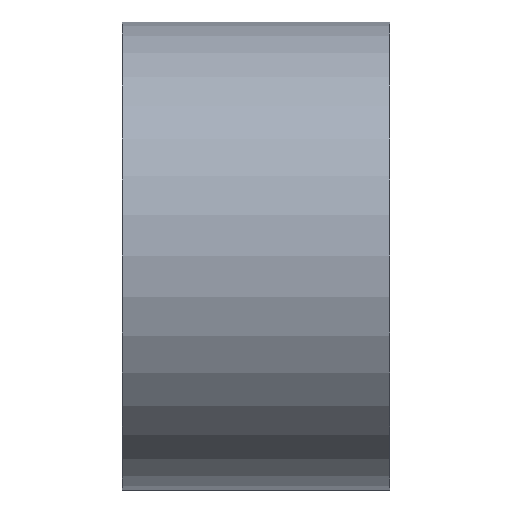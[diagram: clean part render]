
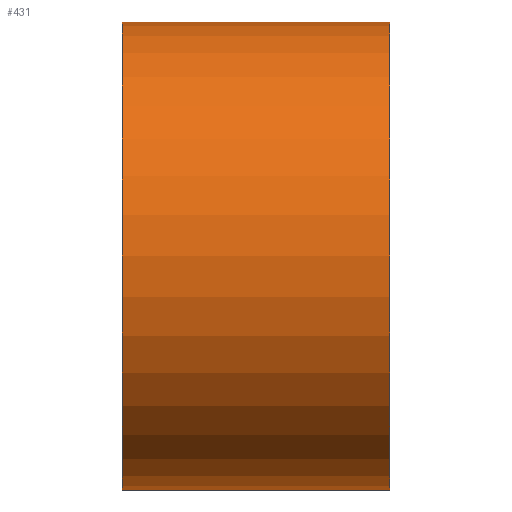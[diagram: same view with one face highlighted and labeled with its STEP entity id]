
A CAD part, left-side view. The second image highlights one B-rep face of the part: STEP entity #431.
In plain terms, the highlighted cylindrical face has radius 17.5 mm (diameter 35 mm), a partial arc.
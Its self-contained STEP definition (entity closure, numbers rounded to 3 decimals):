
#2 = LINE ( 'NONE', #452, #10 ) ;
#10 = VECTOR ( 'NONE', #308, 1000. ) ;
#14 = CIRCLE ( 'NONE', #543, 17.5 ) ;
#18 = EDGE_CURVE ( 'NONE', #883, #197, #2, .T. ) ;
#23 = ORIENTED_EDGE ( 'NONE', *, *, #84, .F. ) ;
#84 = EDGE_CURVE ( 'NONE', #140, #658, #461, .T. ) ;
#91 = CARTESIAN_POINT ( 'NONE',  ( 0., 10., 17.5 ) ) ;
#140 = VERTEX_POINT ( 'NONE', #253 ) ;
#166 = CYLINDRICAL_SURFACE ( 'NONE', #909, 17.5 ) ;
#170 = EDGE_LOOP ( 'NONE', ( #23, #701, #787, #877 ) ) ;
#185 = CARTESIAN_POINT ( 'NONE',  ( 0., -10., 17.5 ) ) ;
#197 = VERTEX_POINT ( 'NONE', #91 ) ;
#211 = DIRECTION ( 'NONE',  ( 0., 1., 0. ) ) ;
#253 = CARTESIAN_POINT ( 'NONE',  ( 0., -10., -17.5 ) ) ;
#282 = CARTESIAN_POINT ( 'NONE',  ( 0., -10., 0. ) ) ;
#308 = DIRECTION ( 'NONE',  ( 0., 1., 0. ) ) ;
#431 = ADVANCED_FACE ( 'NONE', ( #751 ), #166, .T. ) ;
#452 = CARTESIAN_POINT ( 'NONE',  ( 0., 0., 17.5 ) ) ;
#458 = CIRCLE ( 'NONE', #866, 17.5 ) ;
#461 = LINE ( 'NONE', #833, #584 ) ;
#528 = DIRECTION ( 'NONE',  ( 0., 1., 0. ) ) ;
#543 = AXIS2_PLACEMENT_3D ( 'NONE', #282, #211, #656 ) ;
#558 = DIRECTION ( 'NONE',  ( 0., 0., 1. ) ) ;
#584 = VECTOR ( 'NONE', #528, 1000. ) ;
#610 = DIRECTION ( 'NONE',  ( 0., 1., 0. ) ) ;
#611 = CARTESIAN_POINT ( 'NONE',  ( 0., 10., -17.5 ) ) ;
#656 = DIRECTION ( 'NONE',  ( 0., 0., 1. ) ) ;
#658 = VERTEX_POINT ( 'NONE', #611 ) ;
#685 = DIRECTION ( 'NONE',  ( 0., 0., 1. ) ) ;
#692 = CARTESIAN_POINT ( 'NONE',  ( 0., 10., 0. ) ) ;
#701 = ORIENTED_EDGE ( 'NONE', *, *, #735, .T. ) ;
#735 = EDGE_CURVE ( 'NONE', #140, #883, #14, .T. ) ;
#742 = DIRECTION ( 'NONE',  ( 0., 1., 0. ) ) ;
#751 = FACE_OUTER_BOUND ( 'NONE', #170, .T. ) ;
#787 = ORIENTED_EDGE ( 'NONE', *, *, #18, .T. ) ;
#820 = CARTESIAN_POINT ( 'NONE',  ( 0., 0., 0. ) ) ;
#833 = CARTESIAN_POINT ( 'NONE',  ( 0., 0., -17.5 ) ) ;
#846 = EDGE_CURVE ( 'NONE', #658, #197, #458, .T. ) ;
#866 = AXIS2_PLACEMENT_3D ( 'NONE', #692, #610, #558 ) ;
#877 = ORIENTED_EDGE ( 'NONE', *, *, #846, .F. ) ;
#883 = VERTEX_POINT ( 'NONE', #185 ) ;
#909 = AXIS2_PLACEMENT_3D ( 'NONE', #820, #742, #685 ) ;
